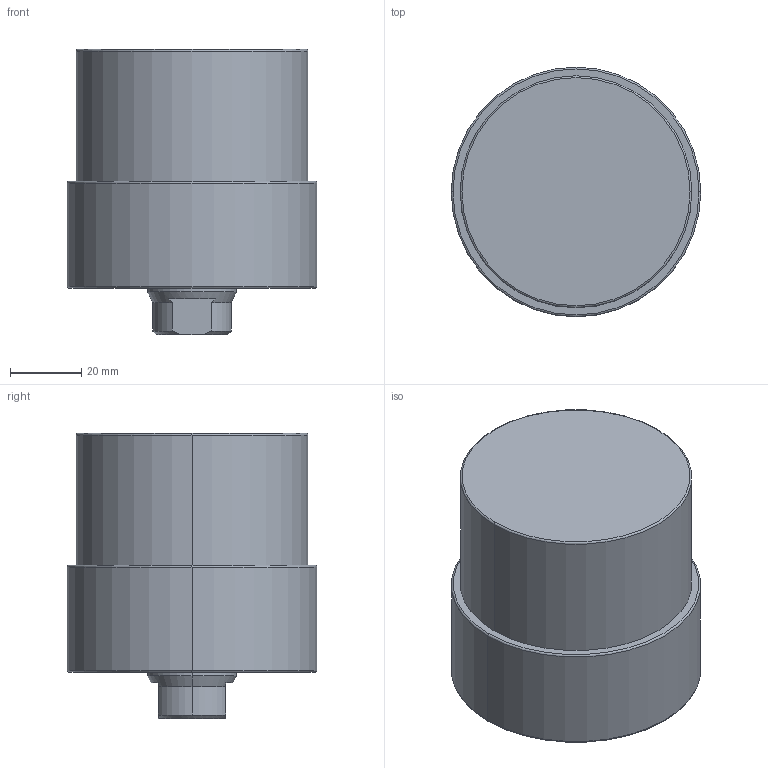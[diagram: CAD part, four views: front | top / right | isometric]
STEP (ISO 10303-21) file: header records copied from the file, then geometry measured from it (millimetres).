
FILE_DESCRIPTION (( 'STEP AP203' ), '1' );
FILE_NAME ('CLLU-065GA-020.STEP', '2020-01-06T08:03:43', ( '' ), ( '' ), 'SwSTEP 2.0', 'SolidWorks 2015', '' );
FILE_SCHEMA (( 'CONFIG_CONTROL_DESIGN' ));
Length unit declared in the file: millimetre
Products named in the file (1): CLLU-065GA-020
Bounding box: 70 x 70 x 80 mm (x, y, z)
Volume: 238768.1 mm3; surface area: 24719.4 mm2
Topology: 1 solids, 1 shells, 64 faces, 145 edges, 82 vertices
Faces by surface type: cone 25, cylinder 23, plane 10, torus 6
Entity records: 1811 total; most frequent: DIRECTION 332, CARTESIAN_POINT 310, ORIENTED_EDGE 270, AXIS2_PLACEMENT_3D 140, EDGE_CURVE 135, VERTEX_POINT 82, CIRCLE 75, EDGE_LOOP 73
